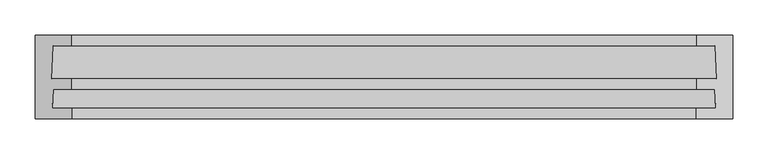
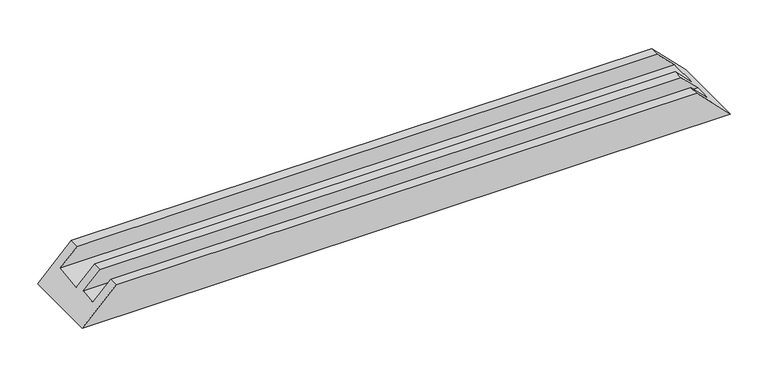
"""IFC4 building model written with IfcOpenShell, lengths in millimetres: proxy geometry, Weiku - Montante - Caixilho triplo 02.2.01.004 : Weiku - Montante - Caixilho triplo 02.2.01.004."""

from ifc_helpers import new_model, si_unit, origin, place, context, project, spatial, faceted_brep, source, transform, mapped, element, save


def generic_models_9d91b36a(model_context):
    return source(origin(), model_context, "Body", "Brep", [
        faceted_brep([(-471.5, -15.0, 26.0), (471.5, -15.0, 26.0), (445.5, -15.0, 52.0), (-445.5, -15.0, 52.0), (-473.7229744, -62.0, 23.7770256), (473.7229744, -62.0, 23.7770256), (-445.5, -62.0, 52.0), (445.5, -62.0, 52.0), (-445.5, -77.0, 52.0), (445.5, -77.0, 52.0), (-471.5, -77.0, 26.0), (471.5, -77.0, 26.0), (-497.5, -119.0, 0.0), (-497.5, 0.0, 0.0), (497.5, 0.0, 0.0), (497.5, -119.0, 0.0), (-445.5, 0.0, 52.0), (445.5, 0.0, 52.0), (-445.5, -119.0, 52.0), (-445.5, -104.0, 52.0), (-472.7770279, -104.0, 24.7229721), (472.7770279, -104.0, 24.7229721), (445.5, -104.0, 52.0), (445.5, -119.0, 52.0)], [[[0, 1, 2, 3]], [[4, 5, 1, 0]], [[6, 7, 5, 4]], [[8, 9, 7, 6]], [[10, 11, 9, 8]], [[12, 13, 14, 15]], [[13, 16, 17, 14]], [[3, 2, 17, 16]], [[3, 16, 13, 12, 18, 19, 20, 10, 8, 6, 4, 0]], [[1, 5, 7, 9, 11, 21, 22, 23, 15, 14, 17, 2]], [[20, 21, 11, 10]], [[19, 22, 21, 20]], [[18, 23, 22, 19]], [[15, 23, 18, 12]]]),
    ])


if __name__ == "__main__":
    model = new_model("IFC4")
    model_context = context("Model", 3, world=origin())
    ifc_project = project(units=[si_unit("LENGTHUNIT", "METRE", prefix="MILLI")], contexts=[model_context])
    site = spatial("IfcSite", under=ifc_project)
    building = spatial("IfcBuilding", under=site)
    placement = place(None, origin())
    generic_models_shape = generic_models_9d91b36a(model_context)
    element("IfcBuildingElementProxy", 1, Name="Weiku - Montante - Caixilho triplo 02.2.01.004 : Weiku - Montante - Caixilho triplo 02.2.01.004", ObjectType="Weiku - Montante - Caixilho triplo 02.2.01.004 : Weiku - Montante - Caixilho triplo 02.2.01.004", at=placement, inside=building, context=model_context, shape_type="MappedRepresentation", body=[
        mapped(generic_models_shape, transform((0.0, 0.0, 0.0), x_axis=(1.0, 0.0, 0.0), y_axis=(0.0, 1.0, 0.0), z_axis=(0.0, 0.0, 1.0))),
    ])
    save(model, "model.ifc")
